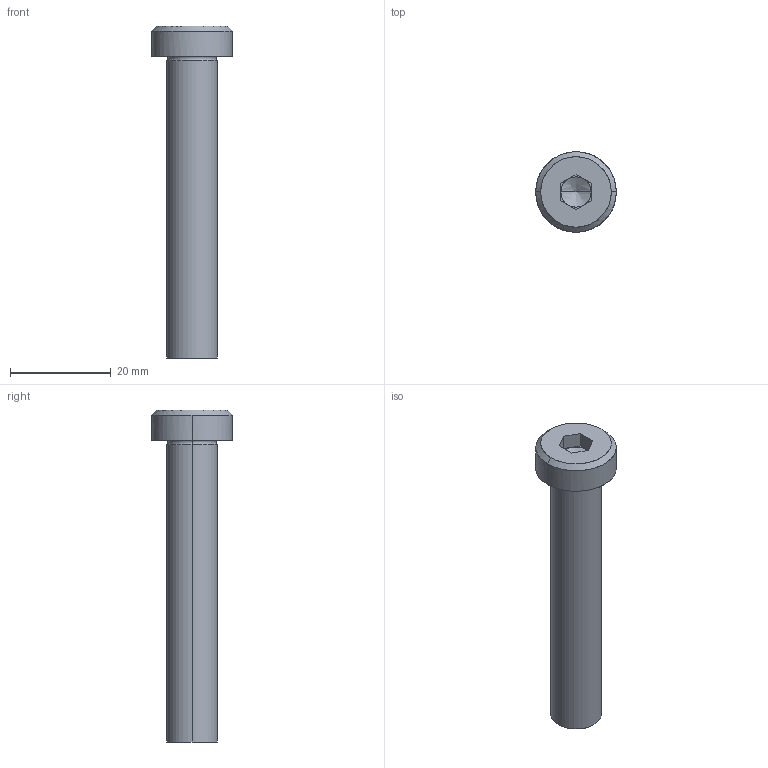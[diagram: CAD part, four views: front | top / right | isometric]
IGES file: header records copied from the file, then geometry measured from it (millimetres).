
Global section: file name: E:\UnigraphicsGraphicData\MISUMI_PRESS-PARTS\IGES\3d_sbtcn10-60_05138_r00.igs; native system: NX V5.0; preprocessor: UGS NX IGES V5.0; author: MISUMI; date: 20110105.162453; units: millimetre
Bounding box: 16 x 16 x 66 mm (x, y, z)
Surface area: 2943.7 mm2 (no closed solid volume)
Topology: 0 solids, 0 shells, 34 faces, 180 edges, 176 vertices
Faces by surface type: bspline 34
